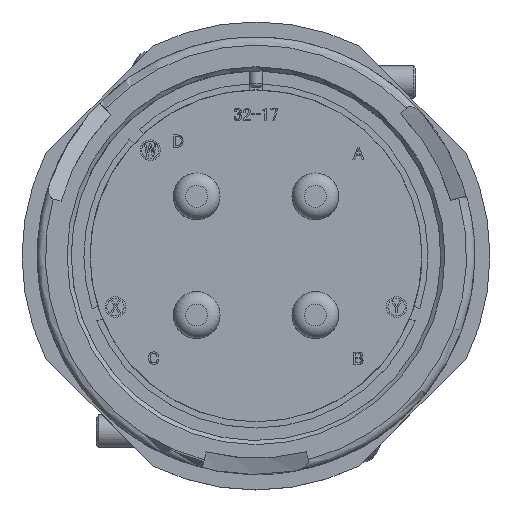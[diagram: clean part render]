
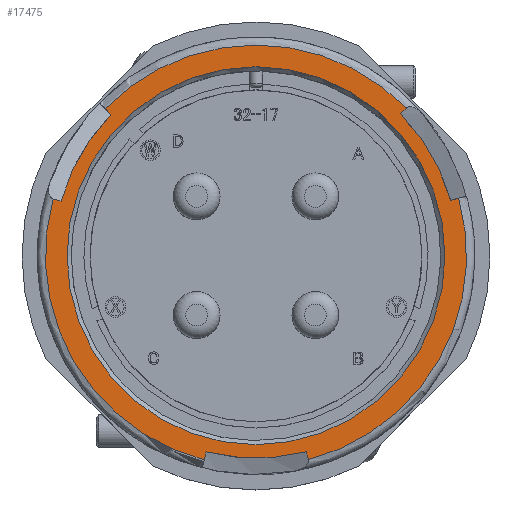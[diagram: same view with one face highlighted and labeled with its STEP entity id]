
A CAD part, top view. The second image highlights one B-rep face of the part: STEP entity #17475.
In plain terms, the highlighted planar face has unit normal (0, 0, 1).
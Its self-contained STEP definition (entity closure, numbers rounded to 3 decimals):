
#69 = CARTESIAN_POINT ( 'NONE',  ( 23.763, 6.738, 0. ) ) ;
#161 = VERTEX_POINT ( 'NONE', #32771 ) ;
#773 = AXIS2_PLACEMENT_3D ( 'NONE', #18659, #10920, #29680 ) ;
#804 = VERTEX_POINT ( 'NONE', #4526 ) ;
#1159 = DIRECTION ( 'NONE',  ( -1., 0., 0. ) ) ;
#1354 = CIRCLE ( 'NONE', #22478, 25.7 ) ;
#1671 = VERTEX_POINT ( 'NONE', #69 ) ;
#1708 = CARTESIAN_POINT ( 'NONE',  ( 6.147, -23.923, 0. ) ) ;
#1763 = CARTESIAN_POINT ( 'NONE',  ( -18.411, 17.931, 0. ) ) ;
#2292 = EDGE_CURVE ( 'NONE', #19261, #804, #11261, .T. ) ;
#2300 = DIRECTION ( 'NONE',  ( 0., 0., 1. ) ) ;
#2600 = EDGE_CURVE ( 'NONE', #31153, #7680, #1354, .T. ) ;
#3063 = CARTESIAN_POINT ( 'NONE',  ( 0., 0., 0. ) ) ;
#3237 = EDGE_LOOP ( 'NONE', ( #23955 ) ) ;
#3267 = DIRECTION ( 'NONE',  ( 0., 0., 1. ) ) ;
#3300 = DIRECTION ( 'NONE',  ( -1., 0., 0. ) ) ;
#3624 = EDGE_CURVE ( 'NONE', #13754, #20666, #13466, .T. ) ;
#3839 = CARTESIAN_POINT ( 'NONE',  ( 0., 0., 0. ) ) ;
#4524 = ORIENTED_EDGE ( 'NONE', *, *, #16058, .T. ) ;
#4526 = CARTESIAN_POINT ( 'NONE',  ( -23.791, 6.638, 0. ) ) ;
#5008 = ORIENTED_EDGE ( 'NONE', *, *, #24835, .T. ) ;
#5769 = CARTESIAN_POINT ( 'NONE',  ( -6.569, -25.879, 0. ) ) ;
#6030 = LINE ( 'NONE', #7487, #20302 ) ;
#6555 = DIRECTION ( 'NONE',  ( 0., 0., -1. ) ) ;
#6789 = VECTOR ( 'NONE', #21953, 1000. ) ;
#6922 = DIRECTION ( 'NONE',  ( 0., 0., -1. ) ) ;
#7265 = PLANE ( 'NONE',  #23371 ) ;
#7487 = CARTESIAN_POINT ( 'NONE',  ( 25.687, 7.283, 0. ) ) ;
#7636 = ORIENTED_EDGE ( 'NONE', *, *, #28017, .F. ) ;
#7658 = CARTESIAN_POINT ( 'NONE',  ( 24.725, 7.011, 0. ) ) ;
#7680 = VERTEX_POINT ( 'NONE', #1763 ) ;
#7951 = AXIS2_PLACEMENT_3D ( 'NONE', #13100, #31742, #34427 ) ;
#8046 = DIRECTION ( 'NONE',  ( 0.716, -0.698, 0. ) ) ;
#8780 = CIRCLE ( 'NONE', #15854, 24.7 ) ;
#8851 = DIRECTION ( 'NONE',  ( 1., 0., 0. ) ) ;
#8976 = LINE ( 'NONE', #15753, #28273 ) ;
#9190 = CARTESIAN_POINT ( 'NONE',  ( -24.754, 6.907, 0. ) ) ;
#9365 = CARTESIAN_POINT ( 'NONE',  ( -17.695, 17.233, 0. ) ) ;
#9429 = VERTEX_POINT ( 'NONE', #9365 ) ;
#9577 = CARTESIAN_POINT ( 'NONE',  ( 6.396, -24.891, 0. ) ) ;
#10124 = ORIENTED_EDGE ( 'NONE', *, *, #33410, .F. ) ;
#10920 = DIRECTION ( 'NONE',  ( 0., 0., 1. ) ) ;
#11261 = B_SPLINE_CURVE_WITH_KNOTS ( 'NONE', 1,
 ( #21011, #17844 ),
 .UNSPECIFIED., .F., .F.,
 ( 2, 2 ),
 ( 0.5, 1. ),
 .UNSPECIFIED. ) ;
#11773 = CARTESIAN_POINT ( 'NONE',  ( 18.329, 18.014, 0. ) ) ;
#12541 = CARTESIAN_POINT ( 'NONE',  ( 0., 0., 0. ) ) ;
#12592 = VERTEX_POINT ( 'NONE', #7658 ) ;
#13100 = CARTESIAN_POINT ( 'NONE',  ( 0., 0., 0. ) ) ;
#13335 = CARTESIAN_POINT ( 'NONE',  ( 6.147, -23.923, 0. ) ) ;
#13466 = LINE ( 'NONE', #5769, #6789 ) ;
#13754 = VERTEX_POINT ( 'NONE', #27913 ) ;
#15753 = CARTESIAN_POINT ( 'NONE',  ( -19.127, 18.629, 0. ) ) ;
#15854 = AXIS2_PLACEMENT_3D ( 'NONE', #12541, #2300, #34437 ) ;
#16058 = EDGE_CURVE ( 'NONE', #23264, #12592, #32640, .T. ) ;
#16666 = ORIENTED_EDGE ( 'NONE', *, *, #3624, .T. ) ;
#17475 = ADVANCED_FACE ( 'NONE', ( #33380, #26283 ), #7265, .F. ) ;
#17844 = CARTESIAN_POINT ( 'NONE',  ( -23.791, 6.638, 0. ) ) ;
#18018 = ORIENTED_EDGE ( 'NONE', *, *, #18145, .T. ) ;
#18145 = EDGE_CURVE ( 'NONE', #19261, #13754, #23731, .T. ) ;
#18534 = CIRCLE ( 'NONE', #773, 24.7 ) ;
#18659 = CARTESIAN_POINT ( 'NONE',  ( 0., 0., 0. ) ) ;
#18742 = CARTESIAN_POINT ( 'NONE',  ( 6.396, -24.891, 0. ) ) ;
#18972 = B_SPLINE_CURVE_WITH_KNOTS ( 'NONE', 1,
 ( #9577, #1708 ),
 .UNSPECIFIED., .F., .F.,
 ( 2, 2 ),
 ( 0.5, 1. ),
 .UNSPECIFIED. ) ;
#19261 = VERTEX_POINT ( 'NONE', #9190 ) ;
#19610 = DIRECTION ( 'NONE',  ( 0., 0., 1. ) ) ;
#19706 = CARTESIAN_POINT ( 'NONE',  ( -6.077, -23.941, 0. ) ) ;
#20208 = ORIENTED_EDGE ( 'NONE', *, *, #2292, .F. ) ;
#20302 = VECTOR ( 'NONE', #34538, 1000. ) ;
#20471 = CARTESIAN_POINT ( 'NONE',  ( 17.616, 17.314, 0. ) ) ;
#20500 = EDGE_CURVE ( 'NONE', #20666, #26525, #18534, .T. ) ;
#20666 = VERTEX_POINT ( 'NONE', #19706 ) ;
#21011 = CARTESIAN_POINT ( 'NONE',  ( -24.754, 6.907, 0. ) ) ;
#21930 = CARTESIAN_POINT ( 'NONE',  ( 0., 0., 0. ) ) ;
#21953 = DIRECTION ( 'NONE',  ( 0.246, 0.969, 0. ) ) ;
#22404 = ORIENTED_EDGE ( 'NONE', *, *, #26528, .T. ) ;
#22478 = AXIS2_PLACEMENT_3D ( 'NONE', #21930, #3267, #24408 ) ;
#22788 = ORIENTED_EDGE ( 'NONE', *, *, #26730, .T. ) ;
#22989 = CARTESIAN_POINT ( 'NONE',  ( 0., 26.7, 0. ) ) ;
#23164 = EDGE_CURVE ( 'NONE', #1671, #24507, #8780, .T. ) ;
#23264 = VERTEX_POINT ( 'NONE', #18742 ) ;
#23371 = AXIS2_PLACEMENT_3D ( 'NONE', #22989, #6922, #34080 ) ;
#23731 = CIRCLE ( 'NONE', #27073, 25.7 ) ;
#23955 = ORIENTED_EDGE ( 'NONE', *, *, #34686, .T. ) ;
#24408 = DIRECTION ( 'NONE',  ( -1., 0., 0. ) ) ;
#24466 = AXIS2_PLACEMENT_3D ( 'NONE', #25383, #19610, #8851 ) ;
#24507 = VERTEX_POINT ( 'NONE', #20471 ) ;
#24549 = DIRECTION ( 'NONE',  ( 0., 0., 1. ) ) ;
#24787 = EDGE_LOOP ( 'NONE', ( #7636, #4524, #22404, #27531, #10124, #25480, #22788, #5008, #20208, #18018, #16666, #28807 ) ) ;
#24835 = EDGE_CURVE ( 'NONE', #9429, #804, #27571, .T. ) ;
#25383 = CARTESIAN_POINT ( 'NONE',  ( 0., 0., 0. ) ) ;
#25480 = ORIENTED_EDGE ( 'NONE', *, *, #2600, .T. ) ;
#25656 = B_SPLINE_CURVE_WITH_KNOTS ( 'NONE', 1,
 ( #11773, #28214 ),
 .UNSPECIFIED., .F., .F.,
 ( 2, 2 ),
 ( 0.5, 1. ),
 .UNSPECIFIED. ) ;
#25714 = CARTESIAN_POINT ( 'NONE',  ( 18.329, 18.014, 0. ) ) ;
#25859 = CIRCLE ( 'NONE', #30286, 23.06 ) ;
#26283 = FACE_OUTER_BOUND ( 'NONE', #24787, .T. ) ;
#26525 = VERTEX_POINT ( 'NONE', #13335 ) ;
#26528 = EDGE_CURVE ( 'NONE', #12592, #1671, #6030, .T. ) ;
#26730 = EDGE_CURVE ( 'NONE', #7680, #9429, #8976, .T. ) ;
#27073 = AXIS2_PLACEMENT_3D ( 'NONE', #3063, #24549, #3300 ) ;
#27531 = ORIENTED_EDGE ( 'NONE', *, *, #23164, .T. ) ;
#27571 = CIRCLE ( 'NONE', #24466, 24.7 ) ;
#27913 = CARTESIAN_POINT ( 'NONE',  ( -6.323, -24.91, 0. ) ) ;
#28017 = EDGE_CURVE ( 'NONE', #23264, #26525, #18972, .T. ) ;
#28214 = CARTESIAN_POINT ( 'NONE',  ( 17.616, 17.314, 0. ) ) ;
#28273 = VECTOR ( 'NONE', #8046, 1000. ) ;
#28807 = ORIENTED_EDGE ( 'NONE', *, *, #20500, .T. ) ;
#29680 = DIRECTION ( 'NONE',  ( 1., 0., 0. ) ) ;
#30286 = AXIS2_PLACEMENT_3D ( 'NONE', #3839, #6555, #1159 ) ;
#31153 = VERTEX_POINT ( 'NONE', #25714 ) ;
#31742 = DIRECTION ( 'NONE',  ( 0., 0., 1. ) ) ;
#32640 = CIRCLE ( 'NONE', #7951, 25.7 ) ;
#32771 = CARTESIAN_POINT ( 'NONE',  ( -23.06, 0., 0. ) ) ;
#33380 = FACE_BOUND ( 'NONE', #3237, .T. ) ;
#33410 = EDGE_CURVE ( 'NONE', #31153, #24507, #25656, .T. ) ;
#34080 = DIRECTION ( 'NONE',  ( -1., 0., 0. ) ) ;
#34427 = DIRECTION ( 'NONE',  ( -1., 0., 0. ) ) ;
#34437 = DIRECTION ( 'NONE',  ( 1., 0., 0. ) ) ;
#34538 = DIRECTION ( 'NONE',  ( -0.962, -0.273, 0. ) ) ;
#34686 = EDGE_CURVE ( 'NONE', #161, #161, #25859, .T. ) ;
